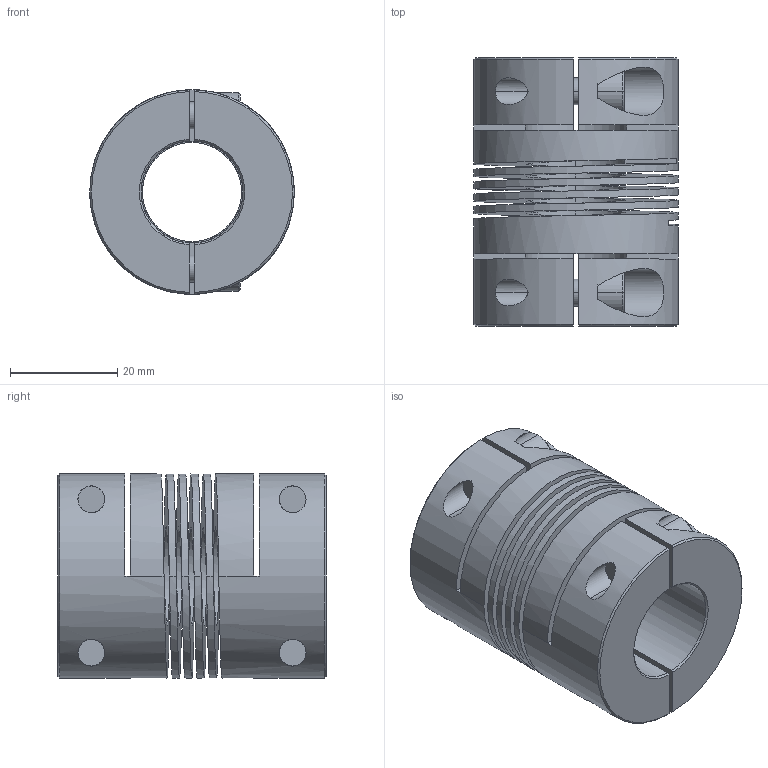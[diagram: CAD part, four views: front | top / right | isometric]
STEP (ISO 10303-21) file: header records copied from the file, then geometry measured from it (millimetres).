
FILE_DESCRIPTION((''),'2;1');
FILE_NAME('821_38','2006-12-13T',('garym'),(''),'PRO/ENGINEER BY PARAMETRIC TECHNOLOGY CORPORATION, 2006010','PRO/ENGINEER BY PARAMETRIC TECHNOLOGY CORPORATION, 2006010','');
FILE_SCHEMA(('CONFIG_CONTROL_DESIGN'));
Length unit declared in the file: millimetre
Products named in the file (1): 821_38
Bounding box: 38.1 x 50 x 38.1 mm (x, y, z)
Volume: 36027.5 mm3; surface area: 22368.6 mm2
Topology: 1 solids, 1 shells, 142 faces, 362 edges, 236 vertices
Faces by surface type: plane 68, cylinder 54, cone 16, bspline 4
Entity records: 5904 total; most frequent: CARTESIAN_POINT 2476, ORIENTED_EDGE 724, DIRECTION 654, EDGE_CURVE 362, VERTEX_POINT 236, AXIS2_PLACEMENT_3D 230, VECTOR 194, LINE 194
